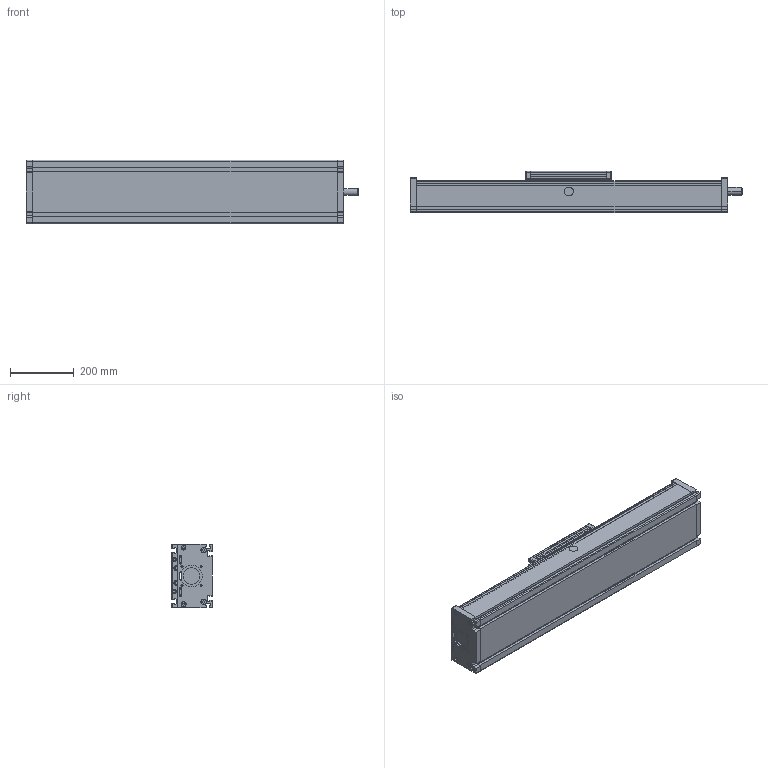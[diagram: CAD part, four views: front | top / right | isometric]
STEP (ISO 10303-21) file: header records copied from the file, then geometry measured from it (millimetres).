
FILE_DESCRIPTION (( 'STEP AP214' ), '1' );
FILE_NAME ('DSTK-200.STEP', '2016-01-14T09:41:21', ( 'admin' ), ( '' ), 'SwSTEP 2.0', 'SolidWorks 2015', '' );
FILE_SCHEMA (( 'AUTOMOTIVE_DESIGN' ));
Length unit declared in the file: millimetre
Products named in the file (5): Kopie von Bahr-DST-DSK-DST-200   1  0  0 0  0 0 0  820_DSTK Carriage 200^DST(K)200 S0 A0_0; Kopie von Bahr-DST-DSK-DST-200   1  0  0 0  0 0 0  820_DSTK Extrusion 200^DST(K)200 S0 A0; Kopie von Bahr-DST-DSK-DST-200   1  0  0 0  0 0 0  820_DSTK End Plate 200 (B)^DST(K)200 S0 A0_0; Kopie von Bahr-DST-DSK-DST-200   1  0  0 0  0 0 0  820_DSTK End Plate 200 (A)^DST(K)200 S0 A0_1; DSTK-200
Assembly tree (4 placements, depth 2):
  DSTK-200
    Kopie von Bahr-DST-DSK-DST-200   1  0  0 0  0 0 0  820_DSTK End Plate 200 (A)^DST(K)200 S0 A0_1
    Kopie von Bahr-DST-DSK-DST-200   1  0  0 0  0 0 0  820_DSTK End Plate 200 (B)^DST(K)200 S0 A0_0
    Kopie von Bahr-DST-DSK-DST-200   1  0  0 0  0 0 0  820_DSTK Extrusion 200^DST(K)200 S0 A0
    Kopie von Bahr-DST-DSK-DST-200   1  0  0 0  0 0 0  820_DSTK Carriage 200^DST(K)200 S0 A0_0
Bounding box: 1045 x 129 x 200.2 mm (x, y, z)
Volume: 20390943.8 mm3; surface area: 1106753.6 mm2
Topology: 8 solids, 8 shells, 749 faces, 1909 edges, 1261 vertices
Faces by surface type: plane 489, cylinder 229, cone 23, torus 8
Entity records: 23409 total; most frequent: CARTESIAN_POINT 4048, DIRECTION 3898, ORIENTED_EDGE 3818, EDGE_CURVE 1909, VECTOR 1404, LINE 1404, VERTEX_POINT 1261, AXIS2_PLACEMENT_3D 1247
